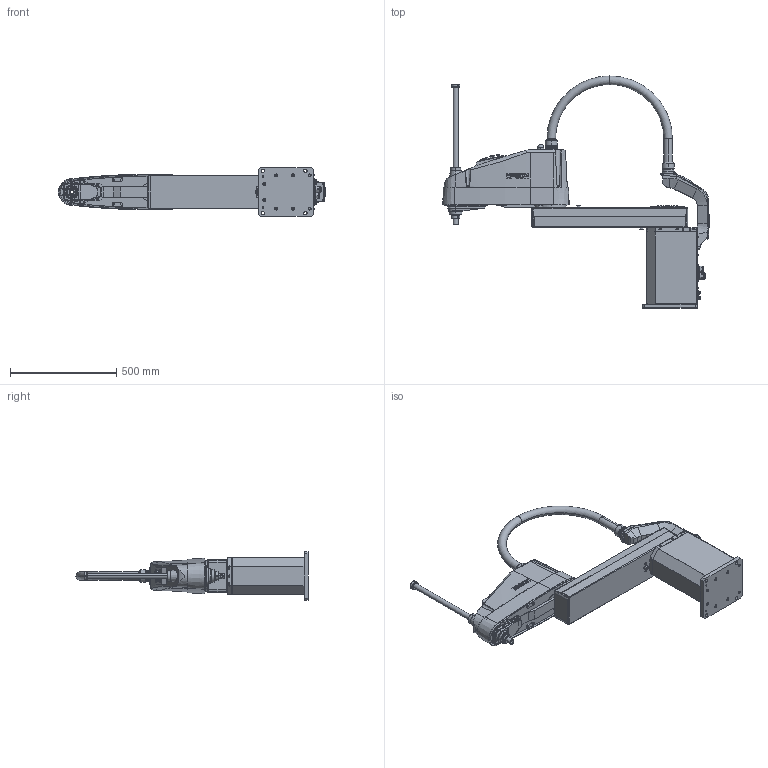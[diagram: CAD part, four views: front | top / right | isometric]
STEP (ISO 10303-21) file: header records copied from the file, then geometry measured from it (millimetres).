
FILE_DESCRIPTION (( 'STEP AP214' ), '1' );
FILE_NAME ('LS20-xA04S.STEP', '2026-08-05T00:04:14', ( '' ), ( '' ), 'SwSTEP 2.0', 'SolidWorks 2020', '' );
FILE_SCHEMA (( 'AUTOMOTIVE_DESIGN' ));
Length unit declared in the file: millimetre
Products named in the file (7): LS20-CA04S_BASE; LS20-CA04S_BASE2; LS20-CA04S_CABLE; LS20-CA04S_SHAFT; LS20-xA04S; LS20-CA04S_J1; LS20-CA04S_J2
Assembly tree (6 placements, depth 2):
  LS20-xA04S
    LS20-CA04S_BASE
    LS20-CA04S_BASE2
    LS20-CA04S_J1
    LS20-CA04S_J2
    LS20-CA04S_SHAFT
    LS20-CA04S_CABLE
Bounding box: 1257.3 x 1092.5 x 230 mm (x, y, z)
Volume: 45067452 mm3; surface area: 2016691.7 mm2
Topology: 6 solids, 6 shells, 3188 faces, 8091 edges, 5217 vertices
Faces by surface type: plane 1471, cylinder 1117, cone 447, torus 105, sphere 38, bspline 10
Entity records: 121995 total; most frequent: CARTESIAN_POINT 36532, ORIENTED_EDGE 16066, DIRECTION 14501, EDGE_CURVE 8033, AXIS2_PLACEMENT_3D 5377, VERTEX_POINT 5215, LINE 3747, VECTOR 3747
